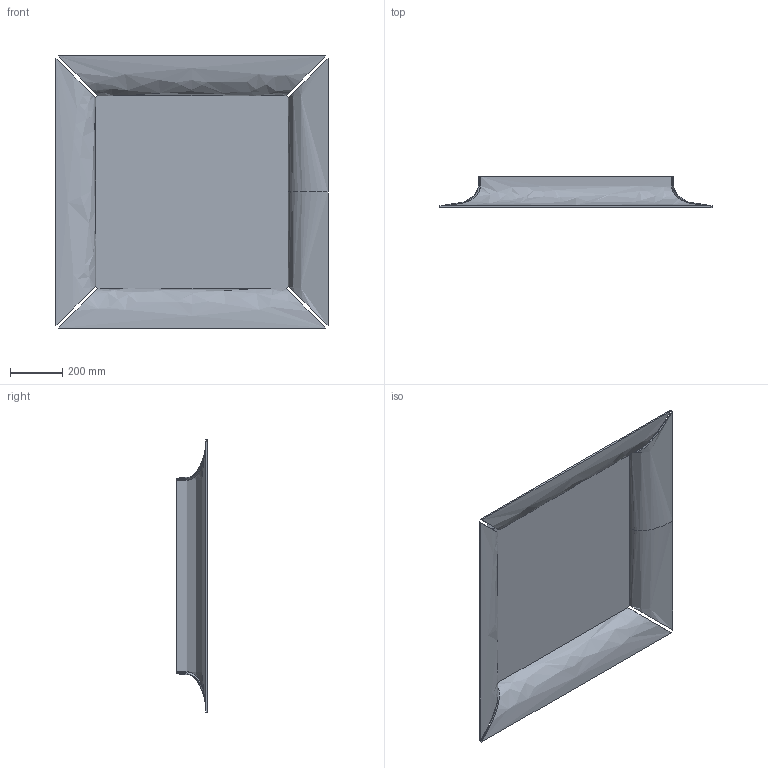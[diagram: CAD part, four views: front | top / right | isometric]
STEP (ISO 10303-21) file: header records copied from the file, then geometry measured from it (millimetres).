
FILE_DESCRIPTION(/* description */ (''),/* implementation_level */ '2;1');
FILE_NAME(/* name */ 'CAADRE~1',/* time_stamp */ '2018-10-08T15:33:03+02:00',/* author */ (''),/* organization */ (''),/* preprocessor_version */ 'ST-DEVELOPER v16.5',/* originating_system */ '',/* authorisation */ '');
FILE_SCHEMA (('CONFIG_CONTROL_DESIGN'));
Length unit declared in the file: millimetre
Products named in the file (1): Document
Bounding box: 1046 x 119 x 1046 mm (x, y, z)
Volume: 10306170.4 mm3; surface area: 3000715 mm2
Topology: 6 solids, 6 shells, 62 faces, 143 edges, 92 vertices
Faces by surface type: bspline 44, plane 18
Entity records: 3540 total; most frequent: CARTESIAN_POINT 2499, ORIENTED_EDGE 280, B_SPLINE_CURVE_WITH_KNOTS 141, EDGE_CURVE 140, VERTEX_POINT 88, ADVANCED_FACE 62, FACE_OUTER_BOUND 62, EDGE_LOOP 62
